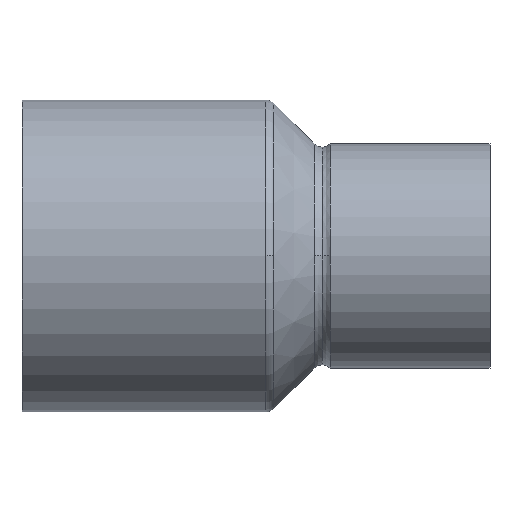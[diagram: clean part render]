
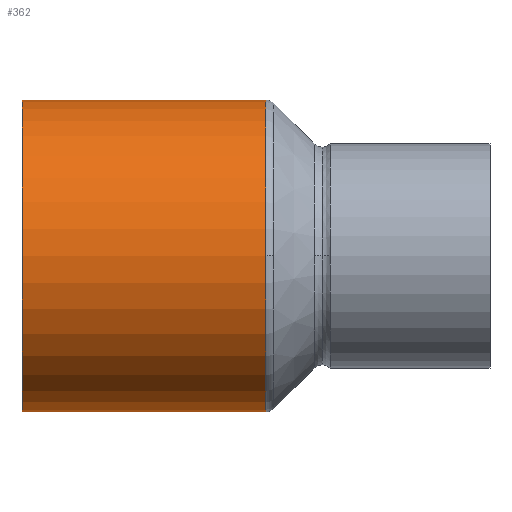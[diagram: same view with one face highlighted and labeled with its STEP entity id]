
A CAD part, top view. The second image highlights one B-rep face of the part: STEP entity #362.
In plain terms, the highlighted cylindrical face has radius 14 mm (diameter 28 mm), a partial arc.
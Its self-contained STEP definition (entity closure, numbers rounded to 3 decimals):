
#312=CARTESIAN_POINT('',(10.937,0.0,0.0));
#313=DIRECTION('',(1.0,0.0,0.0));
#314=DIRECTION('',(0.0,1.0,0.0));
#315=AXIS2_PLACEMENT_3D('',#312,#313,#314);
#316=CYLINDRICAL_SURFACE('',#315,14.);
#317=CARTESIAN_POINT('',(0.,14.,0.0));
#318=VERTEX_POINT('',#317);
#319=CARTESIAN_POINT('',(21.873,14.,0.0));
#320=VERTEX_POINT('',#319);
#321=CARTESIAN_POINT('',(0.,14.,0.0));
#322=DIRECTION('',(1.0,0.0,0.0));
#323=VECTOR('',#322,21.873);
#324=LINE('',#321,#323);
#325=EDGE_CURVE('',#318,#320,#324,.T.);
#326=ORIENTED_EDGE('',*,*,#325,.F.);
#327=CARTESIAN_POINT('',(0.,-14.,0.));
#328=VERTEX_POINT('',#327);
#329=CARTESIAN_POINT('',(0.,0.0,0.0));
#330=DIRECTION('',(1.0,0.0,0.0));
#331=DIRECTION('',(0.0,1.0,0.0));
#332=AXIS2_PLACEMENT_3D('',#329,#330,#331);
#333=CIRCLE('',#332,14.);
#334=EDGE_CURVE('',#318,#328,#333,.T.);
#335=ORIENTED_EDGE('',*,*,#334,.T.);
#336=CARTESIAN_POINT('',(21.873,-14.,0.));
#337=VERTEX_POINT('',#336);
#338=CARTESIAN_POINT('',(21.873,-14.,0.));
#339=DIRECTION('',(-1.0,0.0,0.0));
#340=VECTOR('',#339,21.873);
#341=LINE('',#338,#340);
#342=EDGE_CURVE('',#337,#328,#341,.T.);
#343=ORIENTED_EDGE('',*,*,#342,.F.);
#344=CARTESIAN_POINT('',(21.873,0.,14.));
#345=VERTEX_POINT('',#344);
#346=CARTESIAN_POINT('',(21.873,0.0,0.0));
#347=DIRECTION('',(1.0,0.0,0.0));
#348=DIRECTION('',(0.0,1.0,0.0));
#349=AXIS2_PLACEMENT_3D('',#346,#347,#348);
#350=CIRCLE('',#349,14.);
#351=EDGE_CURVE('',#345,#337,#350,.T.);
#352=ORIENTED_EDGE('',*,*,#351,.F.);
#353=CARTESIAN_POINT('',(21.873,0.0,0.0));
#354=DIRECTION('',(1.0,0.0,0.0));
#355=DIRECTION('',(0.0,1.0,0.0));
#356=AXIS2_PLACEMENT_3D('',#353,#354,#355);
#357=CIRCLE('',#356,14.);
#358=EDGE_CURVE('',#320,#345,#357,.T.);
#359=ORIENTED_EDGE('',*,*,#358,.F.);
#360=EDGE_LOOP('',(#326,#335,#343,#352,#359));
#361=FACE_OUTER_BOUND('',#360,.T.);
#362=ADVANCED_FACE('',(#361),#316,.T.);
